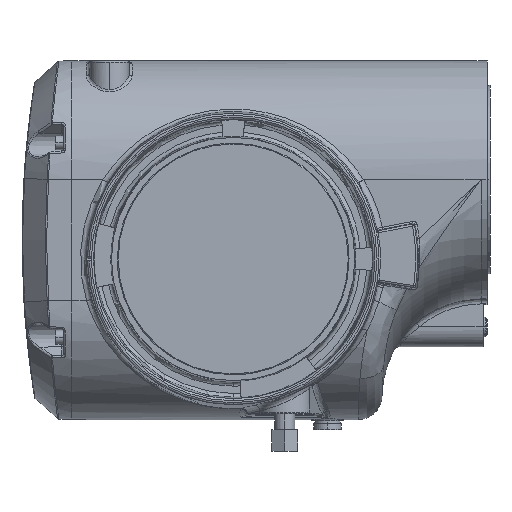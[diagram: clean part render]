
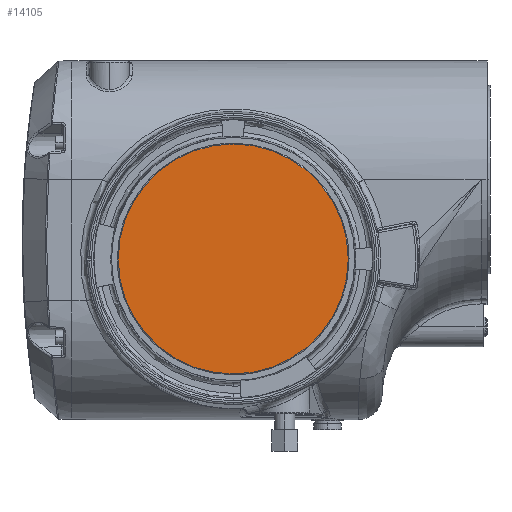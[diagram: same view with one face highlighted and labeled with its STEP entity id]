
A CAD part, front view. The second image highlights one B-rep face of the part: STEP entity #14105.
In plain terms, the highlighted planar face has unit normal (0, -1, 0).
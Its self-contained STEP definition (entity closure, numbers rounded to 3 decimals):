
#4202 = VERTEX_POINT ( 'NONE', #22529 ) ;
#5048 = CIRCLE ( 'NONE', #15642, 58. ) ;
#5476 = CIRCLE ( 'NONE', #9952, 58. ) ;
#7006 = DIRECTION ( 'NONE',  ( 0., 1., 0. ) ) ;
#9952 = AXIS2_PLACEMENT_3D ( 'NONE', #19442, #19819, #10221 ) ;
#10221 = DIRECTION ( 'NONE',  ( 0., 0., 1. ) ) ;
#10999 = PLANE ( 'NONE',  #20987 ) ;
#12170 = CARTESIAN_POINT ( 'NONE',  ( 150., -77., 1119. ) ) ;
#12809 = ORIENTED_EDGE ( 'NONE', *, *, #16057, .F. ) ;
#13058 = DIRECTION ( 'NONE',  ( 0., -1., 0. ) ) ;
#13469 = EDGE_CURVE ( 'NONE', #14077, #4202, #5476, .T. ) ;
#14077 = VERTEX_POINT ( 'NONE', #17875 ) ;
#14105 = ADVANCED_FACE ( 'NONE', ( #24694 ), #10999, .T. ) ;
#15218 = CARTESIAN_POINT ( 'NONE',  ( 150., -77., 1119. ) ) ;
#15642 = AXIS2_PLACEMENT_3D ( 'NONE', #12170, #7006, #19844 ) ;
#16057 = EDGE_CURVE ( 'NONE', #4202, #14077, #5048, .T. ) ;
#17875 = CARTESIAN_POINT ( 'NONE',  ( 150., -77., 1177. ) ) ;
#19442 = CARTESIAN_POINT ( 'NONE',  ( 150., -77., 1119. ) ) ;
#19819 = DIRECTION ( 'NONE',  ( 0., 1., 0. ) ) ;
#19844 = DIRECTION ( 'NONE',  ( 0., 0., 1. ) ) ;
#20987 = AXIS2_PLACEMENT_3D ( 'NONE', #15218, #13058, #22894 ) ;
#21109 = EDGE_LOOP ( 'NONE', ( #24164, #12809 ) ) ;
#22529 = CARTESIAN_POINT ( 'NONE',  ( 150., -77., 1061. ) ) ;
#22894 = DIRECTION ( 'NONE',  ( 0., 0., -1. ) ) ;
#24164 = ORIENTED_EDGE ( 'NONE', *, *, #13469, .F. ) ;
#24694 = FACE_OUTER_BOUND ( 'NONE', #21109, .T. ) ;
